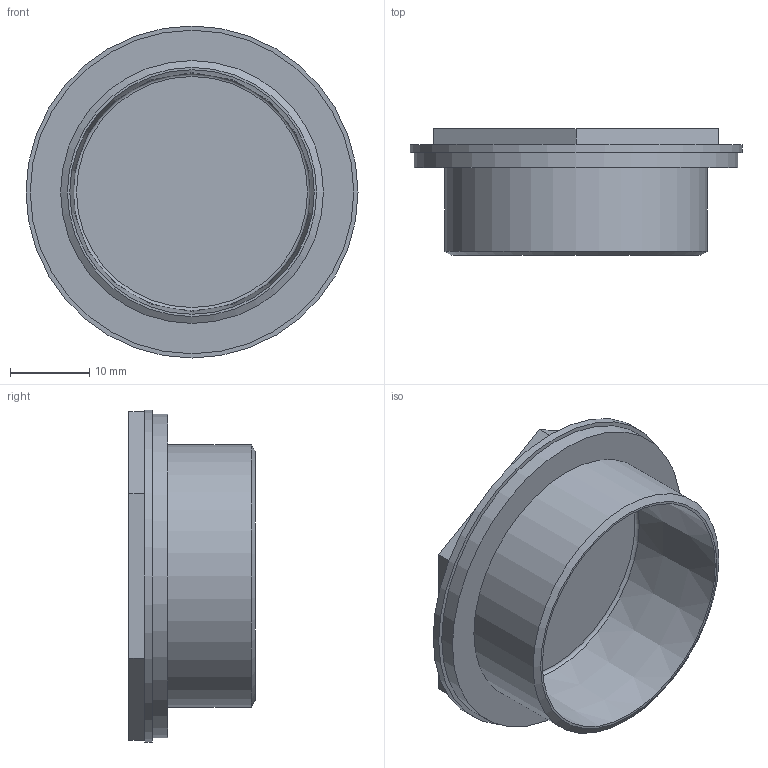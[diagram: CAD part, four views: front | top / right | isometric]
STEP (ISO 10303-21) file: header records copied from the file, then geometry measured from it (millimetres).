
FILE_DESCRIPTION( ( 'STEP AP203' ), '1' );
FILE_NAME( 'C:/Temp/Ganter_Step_05_03_2020/data/3_5/tlt/Oil Level Sight Glass TLT-G1.stp', '2020-03-12T13:43:33', ( 'License CC BY-ND 4.0' ), ( 'CADENAS' ), ' ', 'PARTsolutions', ' ' );
FILE_SCHEMA( ( 'CONFIG_CONTROL_DESIGN' ) );
Length unit declared in the file: millimetre
Products named in the file (1): _Oil Level Sight Glass TLT-G1
Bounding box: 42 x 16 x 42 mm (x, y, z)
Volume: 4900 mm3; surface area: 5809.3 mm2
Topology: 1 solids, 1 shells, 20 faces, 38 edges, 25 vertices
Faces by surface type: plane 13, cone 3, cylinder 3, torus 1
Full cylindrical faces by diameter (mm): 33.249 x1, 40.922 x1, 42 x1
Entity records: 506 total; most frequent: DIRECTION 84, CARTESIAN_POINT 75, ORIENTED_EDGE 60, AXIS2_PLACEMENT_3D 33, EDGE_LOOP 32, EDGE_CURVE 30, FACE_OUTER_BOUND 24, VERTEX_POINT 24
